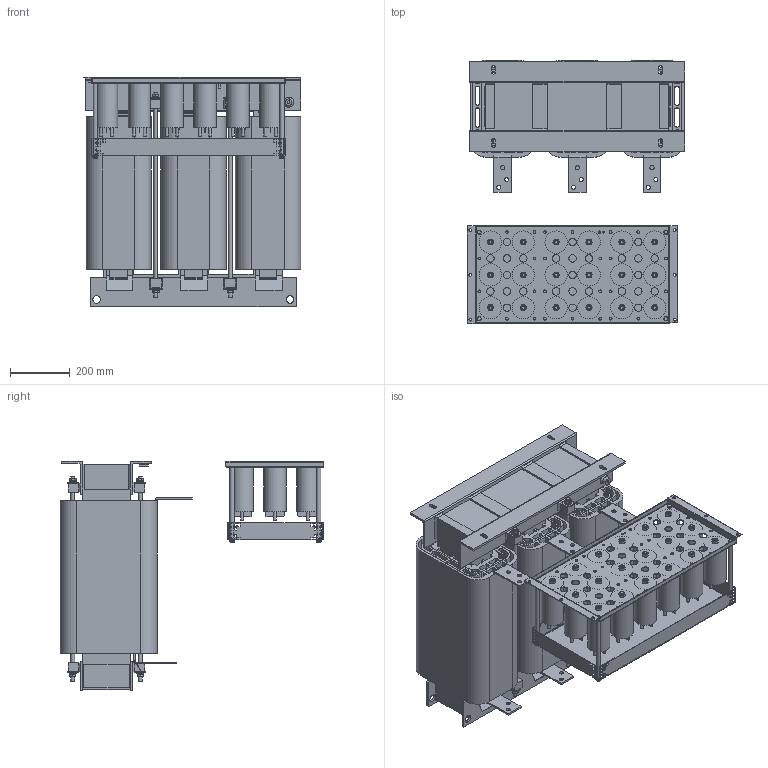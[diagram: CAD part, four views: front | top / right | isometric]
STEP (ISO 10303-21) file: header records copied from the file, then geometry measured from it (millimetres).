
FILE_DESCRIPTION(/* description */ ('raw material description','CAx-IF Rec.Pracs.---Representation and Presentation of Product Manufacturing Information (PMI)---3.8---2014-02-18'),/* implementation_level */ '2;1');
FILE_NAME(/* name */ 'C:\Users\Oliver.Volic\Desktop\FN5040HV-660-99.stp',/* time_stamp */ '2020-02-19T09:40:20+01:00',/* author */ ('Oliver.Volic'),/* organization */ ('Schaffner EMV AG'),/* preprocessor_version */ 'ST-DEVELOPER v16.5',/* originating_system */ 'Autodesk Inventor 2017',/* authorisation */ '');
FILE_SCHEMA (('AP242_MANAGED_MODEL_BASED_3D_ENGINEERING_MIM_LF { 1 0 10303 442 1 1 4 }'));
Products named in the file (1): FN5040HV-660-99
Bounding box: 727.88 x 883.47 x 770 mm (x, y, z)
Volume: 109558664.8 mm3; surface area: 14933347 mm2
Topology: 2 solids, 2 shells, 3451 faces, 9863 edges, 6319 vertices
Faces by surface type: plane 2366, cylinder 884, cone 171, bspline 18, torus 12
Full cylindrical faces by diameter (mm): 6 x1, 7.1 x3, 8 x5, 8.566 x1, 9 x31, 9.5 x3, 10 x40, 12 x30, 12.611 x4, 13 x8, 13.5 x12, 14 x9, 15 x4, 18 x4, 22 x1, 24 x8, 25 x31, 37 x8, 75 x18
Entity records: 114814 total; most frequent: CARTESIAN_POINT 21327, ORIENTED_EDGE 18892, DIRECTION 17977, EDGE_CURVE 9440, LINE 6831, VECTOR 6831, VERTEX_POINT 6234, AXIS2_PLACEMENT_3D 5573
